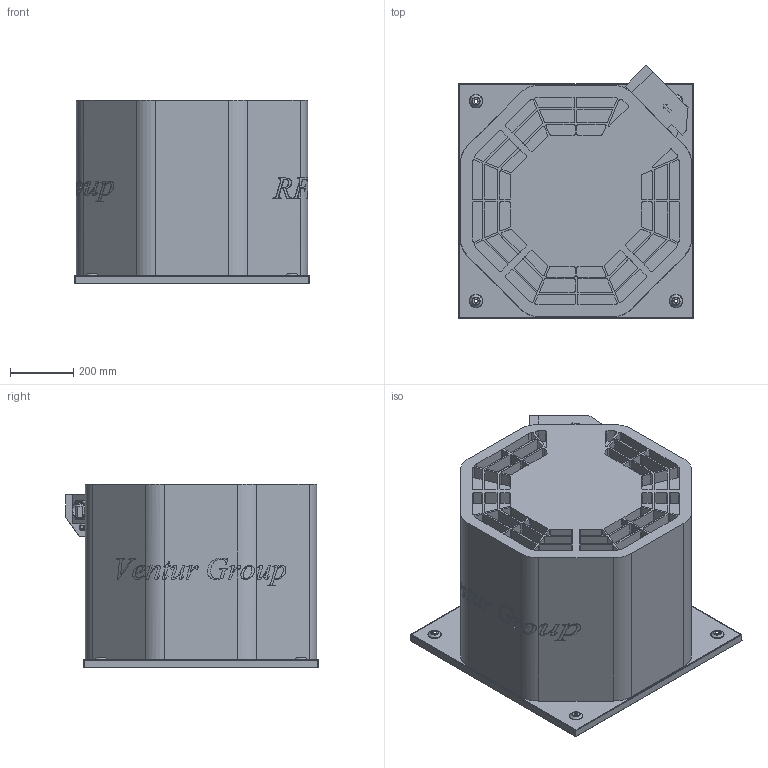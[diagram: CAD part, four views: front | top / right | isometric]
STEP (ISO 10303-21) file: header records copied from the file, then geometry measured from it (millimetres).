
FILE_DESCRIPTION(/* description */ (''),/* implementation_level */ '2;1');
FILE_NAME(/* name */ 'E:\Mariusz\Modele uproszczone\RFHT\RFHT_x_355 43534042\RFHT_x_355 43534042\RFHT_x_355 43534042.stp',/* time_stamp */ '2018-06-13T16:54:16+02:00',/* author */ ('M.Janczarek'),/* organization */ (''),/* preprocessor_version */ 'ST-DEVELOPER v16.5',/* originating_system */ 'Autodesk Inventor 2017',/* authorisation */ '');
FILE_SCHEMA (('AUTOMOTIVE_DESIGN { 1 0 10303 214 3 1 1 }'));
Products named in the file (1): RFHT_x_355 43534042
Bounding box: 740 x 797.09 x 578 mm (x, y, z)
Volume: 239370026 mm3; surface area: 3141257.9 mm2
Topology: 1 solids, 1 shells, 1455 faces, 3994 edges, 2639 vertices
Faces by surface type: plane 803, bspline 324, cylinder 244, cone 62, torus 22
Full cylindrical faces by diameter (mm): 4.5 x2, 6.186 x1, 12.4 x4, 13.5 x1, 17.2 x2, 19 x2, 20 x1, 23 x1, 52 x1, 55 x1, 56.5 x1, 60 x1, 326 x1
Entity records: 49775 total; most frequent: CARTESIAN_POINT 14105, ORIENTED_EDGE 7888, DIRECTION 6212, EDGE_CURVE 3944, VERTEX_POINT 2638, LINE 2458, VECTOR 2458, AXIS2_PLACEMENT_3D 1877
